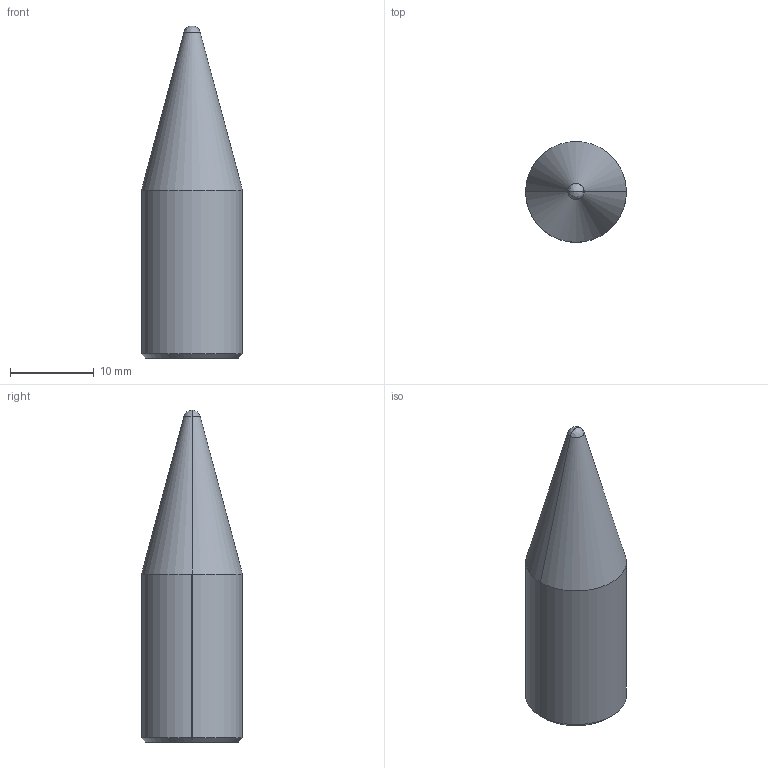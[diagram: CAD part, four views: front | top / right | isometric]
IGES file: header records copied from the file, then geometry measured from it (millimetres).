
Global section: file name: E:\UnigraphicsGraphicData\MISUMI_PRESS-PARTS\IGES\3d_snst12-b20_03108_r00.igs; native system: NX V5.0; preprocessor: UGS NX IGES V5.0; author: MISUMI; date: 20110105.162852; units: millimetre
Bounding box: 12 x 12 x 39.53 mm (x, y, z)
Surface area: 1512.5 mm2 (no closed solid volume)
Topology: 0 solids, 0 shells, 12 faces, 64 edges, 62 vertices
Faces by surface type: bspline 12
